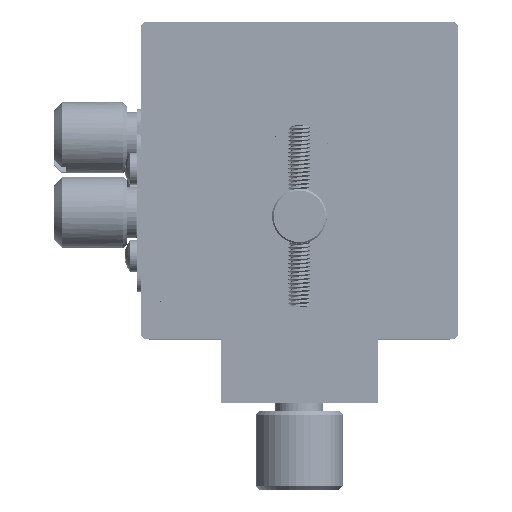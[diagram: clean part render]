
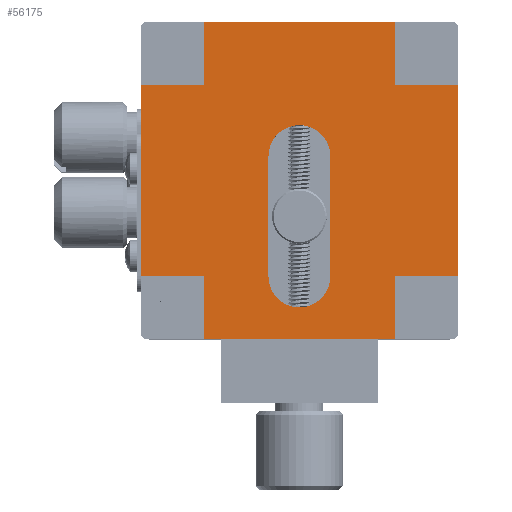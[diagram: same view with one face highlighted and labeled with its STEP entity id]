
A CAD part, top view. The second image highlights one B-rep face of the part: STEP entity #56175.
In plain terms, the highlighted planar face has unit normal (0, 0, 1).
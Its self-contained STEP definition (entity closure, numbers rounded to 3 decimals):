
#453 = EDGE_CURVE ( 'NONE', #73667, #35790, #15262, .T. ) ;
#636 = DIRECTION ( 'NONE',  ( 0., -1., 0. ) ) ;
#659 = VECTOR ( 'NONE', #67455, 1000. ) ;
#883 = DIRECTION ( 'NONE',  ( 0., 1., 0. ) ) ;
#1433 = CARTESIAN_POINT ( 'NONE',  ( -0.002, 16., 34.8 ) ) ;
#1536 = CARTESIAN_POINT ( 'NONE',  ( 39.998, 16., 34.8 ) ) ;
#1581 = CARTESIAN_POINT ( 'NONE',  ( 19.998, -8.1, 34.8 ) ) ;
#2102 = CIRCLE ( 'NONE', #64052, 3.9 ) ;
#2433 = VERTEX_POINT ( 'NONE', #15782 ) ;
#3626 = CARTESIAN_POINT ( 'NONE',  ( 31.998, -16., 34.8 ) ) ;
#4190 = VECTOR ( 'NONE', #28971, 1000. ) ;
#5162 = DIRECTION ( 'NONE',  ( 0., -1., 0. ) ) ;
#5451 = EDGE_CURVE ( 'NONE', #74189, #55803, #49158, .T. ) ;
#6327 = CARTESIAN_POINT ( 'NONE',  ( 16.098, 7.1, 34.8 ) ) ;
#7424 = LINE ( 'NONE', #1536, #75972 ) ;
#8018 = VECTOR ( 'NONE', #883, 1000. ) ;
#8333 = CARTESIAN_POINT ( 'NONE',  ( 7.998, -16., 34.8 ) ) ;
#9703 = ORIENTED_EDGE ( 'NONE', *, *, #41571, .F. ) ;
#11469 = ORIENTED_EDGE ( 'NONE', *, *, #51671, .F. ) ;
#11969 = CARTESIAN_POINT ( 'NONE',  ( 19.998, 7.1, 34.8 ) ) ;
#12217 = CARTESIAN_POINT ( 'NONE',  ( 16.098, -8.1, 34.8 ) ) ;
#12399 = FACE_BOUND ( 'NONE', #86426, .T. ) ;
#14691 = EDGE_CURVE ( 'NONE', #71259, #29567, #7424, .T. ) ;
#14698 = LINE ( 'NONE', #29134, #46290 ) ;
#14711 = VECTOR ( 'NONE', #24589, 1000. ) ;
#14955 = LINE ( 'NONE', #42039, #50127 ) ;
#15262 = LINE ( 'NONE', #70734, #23540 ) ;
#15782 = CARTESIAN_POINT ( 'NONE',  ( -0.002, -8., 34.8 ) ) ;
#16065 = ORIENTED_EDGE ( 'NONE', *, *, #49931, .T. ) ;
#16074 = CARTESIAN_POINT ( 'NONE',  ( 16.098, 7.1, 34.8 ) ) ;
#16280 = CARTESIAN_POINT ( 'NONE',  ( 7.998, -8., 34.8 ) ) ;
#16590 = DIRECTION ( 'NONE',  ( 0., -1., 0. ) ) ;
#18223 = EDGE_CURVE ( 'NONE', #80063, #41244, #48344, .T. ) ;
#19754 = ORIENTED_EDGE ( 'NONE', *, *, #14691, .F. ) ;
#20561 = DIRECTION ( 'NONE',  ( -1., 0., 0. ) ) ;
#21174 = EDGE_CURVE ( 'NONE', #27198, #87660, #58776, .T. ) ;
#21390 = CARTESIAN_POINT ( 'NONE',  ( 39.998, 16., 34.8 ) ) ;
#21419 = LINE ( 'NONE', #82271, #62224 ) ;
#22436 = VECTOR ( 'NONE', #5162, 1000. ) ;
#23128 = CIRCLE ( 'NONE', #82122, 3.9 ) ;
#23540 = VECTOR ( 'NONE', #16590, 1000. ) ;
#23624 = CARTESIAN_POINT ( 'NONE',  ( 23.898, -8.1, 34.8 ) ) ;
#24164 = EDGE_CURVE ( 'NONE', #75213, #85879, #21419, .T. ) ;
#24589 = DIRECTION ( 'NONE',  ( 0., -1., 0. ) ) ;
#25441 = ORIENTED_EDGE ( 'NONE', *, *, #18223, .F. ) ;
#26772 = EDGE_CURVE ( 'NONE', #55803, #27441, #2102, .T. ) ;
#26823 = EDGE_CURVE ( 'NONE', #27198, #35790, #75070, .T. ) ;
#27198 = VERTEX_POINT ( 'NONE', #8333 ) ;
#27272 = CARTESIAN_POINT ( 'NONE',  ( 19.998, 4., 34.8 ) ) ;
#27441 = VERTEX_POINT ( 'NONE', #64106 ) ;
#27738 = DIRECTION ( 'NONE',  ( -1., 0., 0. ) ) ;
#28886 = ORIENTED_EDGE ( 'NONE', *, *, #34304, .T. ) ;
#28971 = DIRECTION ( 'NONE',  ( 1., 0., 0. ) ) ;
#29134 = CARTESIAN_POINT ( 'NONE',  ( -0.002, -8., 34.8 ) ) ;
#29567 = VERTEX_POINT ( 'NONE', #21390 ) ;
#29583 = ORIENTED_EDGE ( 'NONE', *, *, #86737, .T. ) ;
#30607 = CARTESIAN_POINT ( 'NONE',  ( 7.998, 16., 34.8 ) ) ;
#31760 = VERTEX_POINT ( 'NONE', #23624 ) ;
#33245 = DIRECTION ( 'NONE',  ( 0., 1., 0. ) ) ;
#34304 = EDGE_CURVE ( 'NONE', #80063, #2433, #80461, .T. ) ;
#35790 = VERTEX_POINT ( 'NONE', #3626 ) ;
#36314 = ORIENTED_EDGE ( 'NONE', *, *, #39300, .F. ) ;
#36470 = CARTESIAN_POINT ( 'NONE',  ( 23.898, 7.1, 34.8 ) ) ;
#37635 = ORIENTED_EDGE ( 'NONE', *, *, #26772, .T. ) ;
#38061 = CARTESIAN_POINT ( 'NONE',  ( 31.998, 16., 34.8 ) ) ;
#38160 = ORIENTED_EDGE ( 'NONE', *, *, #24164, .T. ) ;
#39300 = EDGE_CURVE ( 'NONE', #55035, #73667, #14955, .T. ) ;
#39481 = DIRECTION ( 'NONE',  ( 0., 0., -1. ) ) ;
#39917 = FACE_OUTER_BOUND ( 'NONE', #83104, .T. ) ;
#40053 = ORIENTED_EDGE ( 'NONE', *, *, #52680, .T. ) ;
#41244 = VERTEX_POINT ( 'NONE', #30607 ) ;
#41571 = EDGE_CURVE ( 'NONE', #41244, #85879, #87786, .T. ) ;
#41755 = LINE ( 'NONE', #69266, #63707 ) ;
#42039 = CARTESIAN_POINT ( 'NONE',  ( 39.998, -8., 34.8 ) ) ;
#43075 = DIRECTION ( 'NONE',  ( 0., 0., -1. ) ) ;
#45431 = VECTOR ( 'NONE', #57209, 1000. ) ;
#45775 = CARTESIAN_POINT ( 'NONE',  ( -0.002, 24., 34.8 ) ) ;
#46290 = VECTOR ( 'NONE', #20561, 1000. ) ;
#48148 = ORIENTED_EDGE ( 'NONE', *, *, #75608, .F. ) ;
#48344 = LINE ( 'NONE', #1433, #4190 ) ;
#49158 = LINE ( 'NONE', #6327, #8018 ) ;
#49397 = DIRECTION ( 'NONE',  ( 0., 1., 0. ) ) ;
#49931 = EDGE_CURVE ( 'NONE', #31760, #74189, #23128, .T. ) ;
#50127 = VECTOR ( 'NONE', #77619, 1000. ) ;
#50501 = VECTOR ( 'NONE', #80810, 1000. ) ;
#51671 = EDGE_CURVE ( 'NONE', #87660, #2433, #14698, .T. ) ;
#52225 = LINE ( 'NONE', #36470, #45431 ) ;
#52680 = EDGE_CURVE ( 'NONE', #55035, #29567, #41755, .T. ) ;
#53108 = ORIENTED_EDGE ( 'NONE', *, *, #5451, .T. ) ;
#55035 = VERTEX_POINT ( 'NONE', #55881 ) ;
#55671 = DIRECTION ( 'NONE',  ( 0., 0., 1. ) ) ;
#55803 = VERTEX_POINT ( 'NONE', #16074 ) ;
#55881 = CARTESIAN_POINT ( 'NONE',  ( 39.998, -8., 34.8 ) ) ;
#56175 = ADVANCED_FACE ( 'NONE', ( #12399, #39917 ), #67443, .T. ) ;
#57209 = DIRECTION ( 'NONE',  ( 0., -1., 0. ) ) ;
#58776 = LINE ( 'NONE', #86251, #50501 ) ;
#58865 = LINE ( 'NONE', #86344, #14711 ) ;
#62224 = VECTOR ( 'NONE', #27738, 1000. ) ;
#63707 = VECTOR ( 'NONE', #49397, 1000. ) ;
#64052 = AXIS2_PLACEMENT_3D ( 'NONE', #11969, #39481, #80941 ) ;
#64106 = CARTESIAN_POINT ( 'NONE',  ( 23.898, 7.1, 34.8 ) ) ;
#65367 = ORIENTED_EDGE ( 'NONE', *, *, #453, .F. ) ;
#67443 = PLANE ( 'NONE',  #74260 ) ;
#67455 = DIRECTION ( 'NONE',  ( 1., 0., 0. ) ) ;
#68336 = CARTESIAN_POINT ( 'NONE',  ( -0.002, -16., 34.8 ) ) ;
#68708 = CARTESIAN_POINT ( 'NONE',  ( 31.998, -8., 34.8 ) ) ;
#69266 = CARTESIAN_POINT ( 'NONE',  ( 39.998, 24., 34.8 ) ) ;
#70592 = DIRECTION ( 'NONE',  ( 0., -1., 0. ) ) ;
#70734 = CARTESIAN_POINT ( 'NONE',  ( 31.998, -16., 34.8 ) ) ;
#71259 = VERTEX_POINT ( 'NONE', #38061 ) ;
#71889 = VECTOR ( 'NONE', #33245, 1000. ) ;
#73667 = VERTEX_POINT ( 'NONE', #68708 ) ;
#73730 = ORIENTED_EDGE ( 'NONE', *, *, #21174, .F. ) ;
#74189 = VERTEX_POINT ( 'NONE', #12217 ) ;
#74260 = AXIS2_PLACEMENT_3D ( 'NONE', #27272, #55671, #636 ) ;
#75070 = LINE ( 'NONE', #68336, #659 ) ;
#75213 = VERTEX_POINT ( 'NONE', #82328 ) ;
#75494 = DIRECTION ( 'NONE',  ( 1., 0., 0. ) ) ;
#75608 = EDGE_CURVE ( 'NONE', #75213, #71259, #58865, .T. ) ;
#75972 = VECTOR ( 'NONE', #75494, 1000. ) ;
#77619 = DIRECTION ( 'NONE',  ( -1., 0., 0. ) ) ;
#80063 = VERTEX_POINT ( 'NONE', #81411 ) ;
#80461 = LINE ( 'NONE', #45775, #22436 ) ;
#80810 = DIRECTION ( 'NONE',  ( 0., 1., 0. ) ) ;
#80941 = DIRECTION ( 'NONE',  ( 0., -1., 0. ) ) ;
#81411 = CARTESIAN_POINT ( 'NONE',  ( -0.002, 16., 34.8 ) ) ;
#81424 = CARTESIAN_POINT ( 'NONE',  ( 7.998, 24., 34.8 ) ) ;
#81436 = CARTESIAN_POINT ( 'NONE',  ( 7.998, 24., 34.8 ) ) ;
#82122 = AXIS2_PLACEMENT_3D ( 'NONE', #1581, #43075, #70592 ) ;
#82271 = CARTESIAN_POINT ( 'NONE',  ( -0.002, 24., 34.8 ) ) ;
#82328 = CARTESIAN_POINT ( 'NONE',  ( 31.998, 24., 34.8 ) ) ;
#83104 = EDGE_LOOP ( 'NONE', ( #28886, #11469, #73730, #84581, #65367, #36314, #40053, #19754, #48148, #38160, #9703, #25441 ) ) ;
#84581 = ORIENTED_EDGE ( 'NONE', *, *, #26823, .T. ) ;
#85879 = VERTEX_POINT ( 'NONE', #81424 ) ;
#86251 = CARTESIAN_POINT ( 'NONE',  ( 7.998, -16., 34.8 ) ) ;
#86344 = CARTESIAN_POINT ( 'NONE',  ( 31.998, 24., 34.8 ) ) ;
#86426 = EDGE_LOOP ( 'NONE', ( #37635, #29583, #16065, #53108 ) ) ;
#86737 = EDGE_CURVE ( 'NONE', #27441, #31760, #52225, .T. ) ;
#87660 = VERTEX_POINT ( 'NONE', #16280 ) ;
#87786 = LINE ( 'NONE', #81436, #71889 ) ;
